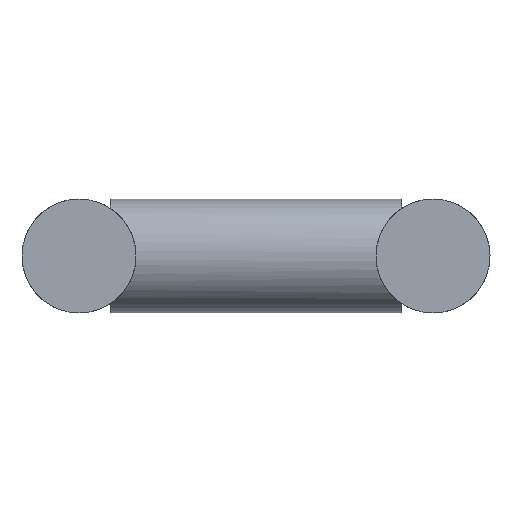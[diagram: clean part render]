
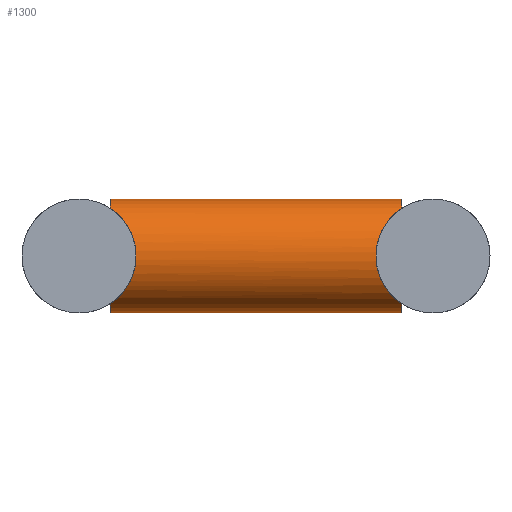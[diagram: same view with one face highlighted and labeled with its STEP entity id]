
A CAD part, left-side view. The second image highlights one B-rep face of the part: STEP entity #1300.
In plain terms, the highlighted cylindrical face has radius 24.15 mm (diameter 48.3 mm), a full revolution.
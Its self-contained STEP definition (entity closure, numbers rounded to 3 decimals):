
#41=FACE_BOUND('',#282,.T.);
#121=ELLIPSE('',#1440,34.153,24.15);
#122=ELLIPSE('',#1441,34.153,24.15);
#123=ELLIPSE('',#1442,34.153,24.15);
#124=ELLIPSE('',#1443,34.153,24.15);
#144=CYLINDRICAL_SURFACE('',#1439,24.15);
#197=FACE_OUTER_BOUND('',#281,.T.);
#281=EDGE_LOOP('',(#923,#924,#925,#926));
#282=EDGE_LOOP('',(#927,#928,#929,#930));
#399=CIRCLE('',#1432,24.15);
#400=CIRCLE('',#1434,24.15);
#401=CIRCLE('',#1436,24.15);
#402=CIRCLE('',#1438,24.15);
#575=VERTEX_POINT('',#2106);
#576=VERTEX_POINT('',#2107);
#577=VERTEX_POINT('',#2111);
#578=VERTEX_POINT('',#2112);
#579=VERTEX_POINT('',#2116);
#580=VERTEX_POINT('',#2117);
#581=VERTEX_POINT('',#2121);
#582=VERTEX_POINT('',#2122);
#724=EDGE_CURVE('',#575,#576,#399,.T.);
#726=EDGE_CURVE('',#577,#578,#400,.T.);
#728=EDGE_CURVE('',#579,#580,#401,.T.);
#730=EDGE_CURVE('',#581,#582,#402,.T.);
#731=EDGE_CURVE('',#578,#575,#121,.T.);
#732=EDGE_CURVE('',#576,#577,#122,.T.);
#733=EDGE_CURVE('',#582,#579,#123,.T.);
#734=EDGE_CURVE('',#580,#581,#124,.T.);
#923=ORIENTED_EDGE('',*,*,#731,.F.);
#924=ORIENTED_EDGE('',*,*,#726,.F.);
#925=ORIENTED_EDGE('',*,*,#732,.F.);
#926=ORIENTED_EDGE('',*,*,#724,.F.);
#927=ORIENTED_EDGE('',*,*,#733,.F.);
#928=ORIENTED_EDGE('',*,*,#730,.F.);
#929=ORIENTED_EDGE('',*,*,#734,.F.);
#930=ORIENTED_EDGE('',*,*,#728,.F.);
#1300=ADVANCED_FACE('',(#197,#41),#144,.T.);
#1432=AXIS2_PLACEMENT_3D('',#2109,#1736,#1737);
#1434=AXIS2_PLACEMENT_3D('',#2114,#1741,#1742);
#1436=AXIS2_PLACEMENT_3D('',#2119,#1746,#1747);
#1438=AXIS2_PLACEMENT_3D('',#2124,#1751,#1752);
#1439=AXIS2_PLACEMENT_3D('',#2125,#1753,#1754);
#1440=AXIS2_PLACEMENT_3D('',#2126,#1755,#1756);
#1441=AXIS2_PLACEMENT_3D('',#2127,#1757,#1758);
#1442=AXIS2_PLACEMENT_3D('',#2128,#1759,#1760);
#1443=AXIS2_PLACEMENT_3D('',#2129,#1761,#1762);
#1736=DIRECTION('center_axis',(0.,1.,0.));
#1737=DIRECTION('ref_axis',(1.,0.,0.));
#1741=DIRECTION('center_axis',(0.,1.,0.));
#1742=DIRECTION('ref_axis',(1.,0.,0.));
#1746=DIRECTION('center_axis',(0.,-1.,0.));
#1747=DIRECTION('ref_axis',(1.,0.,0.));
#1751=DIRECTION('center_axis',(0.,-1.,0.));
#1752=DIRECTION('ref_axis',(1.,0.,0.));
#1753=DIRECTION('center_axis',(0.,-1.,0.));
#1754=DIRECTION('ref_axis',(1.,0.,0.));
#1755=DIRECTION('center_axis',(-0.707,0.707,0.));
#1756=DIRECTION('ref_axis',(0.707,0.707,0.));
#1757=DIRECTION('center_axis',(0.707,0.707,0.));
#1758=DIRECTION('ref_axis',(0.707,-0.707,0.));
#1759=DIRECTION('center_axis',(0.707,-0.707,0.));
#1760=DIRECTION('ref_axis',(0.707,0.707,0.));
#1761=DIRECTION('center_axis',(-0.707,-0.707,0.));
#1762=DIRECTION('ref_axis',(0.707,-0.707,0.));
#2106=CARTESIAN_POINT('',(63.,61.85,20.256));
#2107=CARTESIAN_POINT('',(89.3,61.85,20.256));
#2109=CARTESIAN_POINT('Origin',(76.15,61.85,0.));
#2111=CARTESIAN_POINT('',(89.3,61.85,-20.256));
#2112=CARTESIAN_POINT('',(63.,61.85,-20.256));
#2114=CARTESIAN_POINT('Origin',(76.15,61.85,0.));
#2116=CARTESIAN_POINT('',(89.3,-61.85,20.256));
#2117=CARTESIAN_POINT('',(63.,-61.85,20.256));
#2119=CARTESIAN_POINT('Origin',(76.15,-61.85,0.));
#2121=CARTESIAN_POINT('',(63.,-61.85,-20.256));
#2122=CARTESIAN_POINT('',(89.3,-61.85,-20.256));
#2124=CARTESIAN_POINT('Origin',(76.15,-61.85,0.));
#2125=CARTESIAN_POINT('Origin',(76.15,61.85,0.));
#2126=CARTESIAN_POINT('Origin',(76.15,75.,0.));
#2127=CARTESIAN_POINT('Origin',(76.15,75.,0.));
#2128=CARTESIAN_POINT('Origin',(76.15,-75.,0.));
#2129=CARTESIAN_POINT('Origin',(76.15,-75.,0.));
